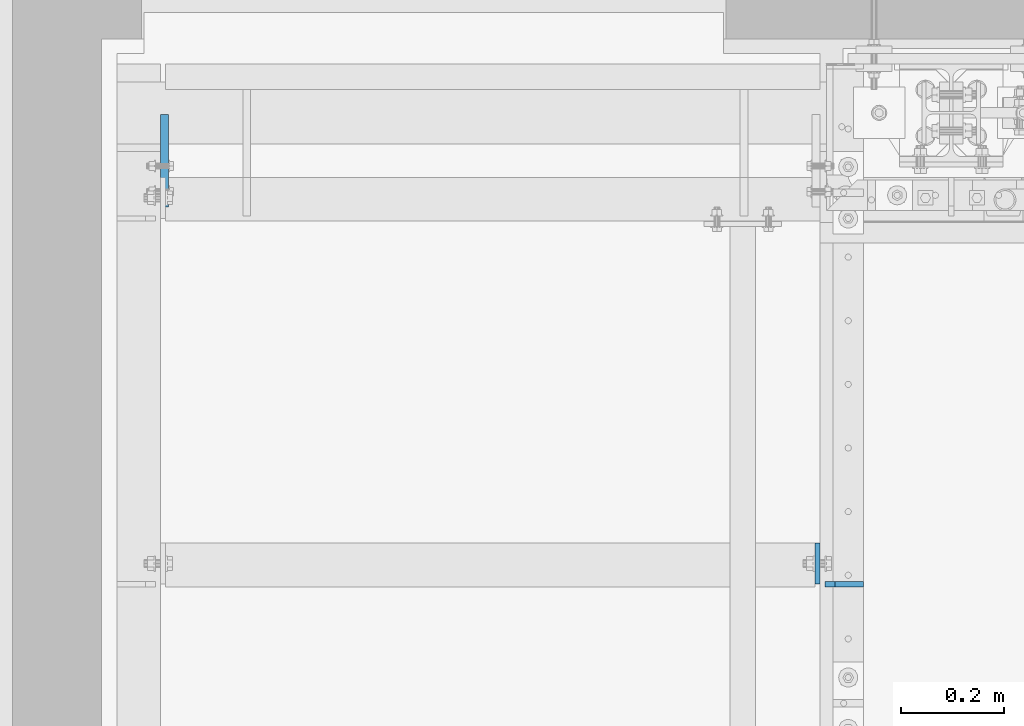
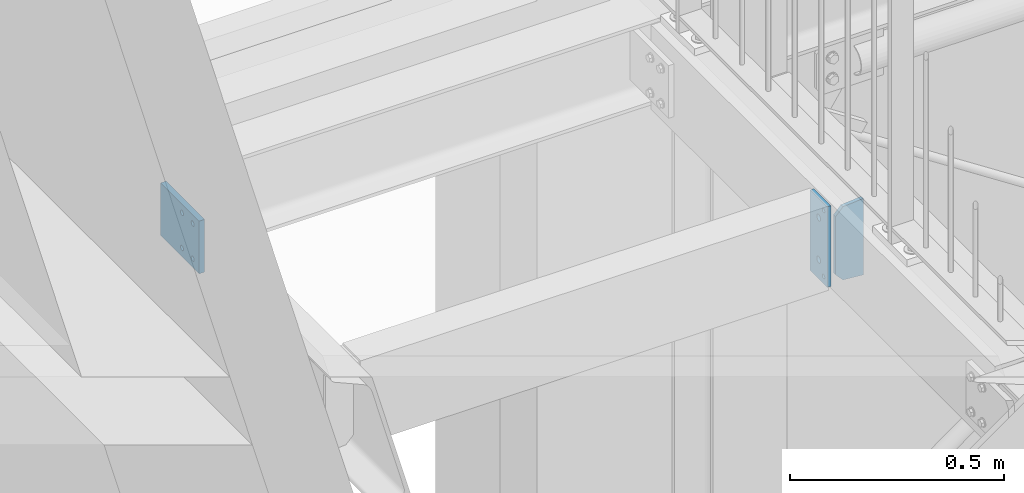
# One storey, part 178 of 825: 3 plates, 10 openings.
"""IFC2X3 building model written with IfcOpenShell, lengths in millimetres."""

from ifc_helpers import new_model, entity, si_unit, converted_unit, frame, frame_2d, origin, origin_with_axes, origin_2d_with_axis, place, context, project, spatial, polyline, circle, outline, extrude, material, layer, layer_set, element, save


model = new_model("IFC2X3")

# Units and contexts
model_context = context("Model", 3, precision=1e-09, world=origin_with_axes())
ifc_project = project(units=[si_unit("LENGTHUNIT", "METRE", prefix="MILLI"), si_unit("AREAUNIT", "SQUARE_METRE"), si_unit("VOLUMEUNIT", "CUBIC_METRE"), converted_unit("PLANEANGLEUNIT", "DEGREE", entity("IfcPlaneAngleMeasure", 0.01745329), si_unit("PLANEANGLEUNIT", "RADIAN"), dimensions=[0, 0, 0, 0, 0, 0, 0])], contexts=[model_context])

# Site, building, storey
site_placement = place(None, origin_with_axes())
site = spatial("IfcSite", under=ifc_project, at=site_placement, Name="Cnopf'sche Kinderklinik", CompositionType="ELEMENT")
building_placement = place(site_placement, origin_with_axes())
building = spatial("IfcBuilding", under=site, at=building_placement, Name="Struktur 1", CompositionType="ELEMENT")
storey_placement = place(building_placement, origin_with_axes())
storey = spatial("IfcBuildingStorey", under=building, at=storey_placement, Name="Default Storey", CompositionType="ELEMENT", Elevation=0.0)

# Plate, openings
ifc_material = material(Name="S235JR")
ifc_layer_1 = layer(ifc_material, 15.0)
ifc_layer_set_1 = layer_set([ifc_layer_1], Name="S235JR")
plate_1_placement = place(None, frame((3336.713402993, 7423.636971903, 17714.000000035), z_axis=(-1.0, 0.0, 0.0), x_axis=(0.0, -1.0, 0.0)))
plate_1 = element("IfcPlate", 1, at=plate_1_placement, inside=storey, material=ifc_layer_set_1, Name="-", ObjectType="-", context=model_context, shape_type="SweptSolid", body=[
    extrude(outline(polyline([(-90.0, -75.0), (90.0, -75.0), (90.0, 75.0), (-90.0, 75.0), (-90.0, -75.0)])), origin_with_axes(), (0.0, 0.0, 1.0), 15.0),
])
opening_1_placement = place(plate_1_placement, frame((52.999, 50.000000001, 15.5), z_axis=(0.0, 0.0, 1.0), x_axis=(1.0, 0.0, 0.0)))
element("IfcOpeningElement", 2, at=opening_1_placement, cuts=plate_1, ObjectType="Opening", context=model_context, shape_type="SweptSolid", body=[
    extrude(circle(Radius=7.001, at=frame_2d((7.001, 0.0), x_axis=(1.0, 0.0))), origin(), (0.0, 0.0, -1.0), 16.0),
])
opening_2_placement = place(plate_1_placement, frame((2.999, 50.000000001, 15.5), z_axis=(0.0, 0.0, 1.0), x_axis=(1.0, 0.0, 0.0)))
element("IfcOpeningElement", 3, at=opening_2_placement, cuts=plate_1, ObjectType="Opening", context=model_context, shape_type="SweptSolid", body=[
    extrude(circle(Radius=7.001, at=frame_2d((7.001, 0.0), x_axis=(1.0, 0.0))), origin(), (0.0, 0.0, -1.0), 16.0),
])
opening_3_placement = place(plate_1_placement, frame((52.999, -49.999999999, 15.5), z_axis=(0.0, 0.0, 1.0), x_axis=(1.0, 0.0, 0.0)))
element("IfcOpeningElement", 4, at=opening_3_placement, cuts=plate_1, ObjectType="Opening", context=model_context, shape_type="SweptSolid", body=[
    extrude(circle(Radius=7.001, at=frame_2d((7.001, 0.0), x_axis=(1.0, 0.0))), origin(), (0.0, 0.0, -1.0), 16.0),
])
opening_4_placement = place(plate_1_placement, frame((2.999, -49.999999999, 15.5), z_axis=(0.0, 0.0, 1.0), x_axis=(1.0, 0.0, 0.0)))
element("IfcOpeningElement", 5, at=opening_4_placement, cuts=plate_1, ObjectType="Opening", context=model_context, shape_type="SweptSolid", body=[
    extrude(circle(Radius=7.001, at=frame_2d((7.001, 0.0), x_axis=(1.0, 0.0))), origin(), (0.0, 0.0, -1.0), 16.0),
])

ifc_layer_2 = layer(ifc_material, 10.0)
ifc_layer_set_2 = layer_set([ifc_layer_2], Name="S235JR")
plate_2_placement = place(None, frame((4686.213402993, 6606.736971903, 17822.855265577), z_axis=(0.0, -1.0, 0.0), x_axis=(-0.996815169, 0.0, -0.079746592)))
plate_2 = element("IfcPlate", 6, at=plate_2_placement, inside=storey, material=ifc_layer_set_2, Name="Stiffener#1", ObjectType="Stiffener#1", context=model_context, shape_type="SweptSolid", body=[
    extrude(outline(polyline([(0.0, 0.0), (75.239625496, 0.0), (91.644322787, 205.05517107), (17.361672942, 217.017159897), (0.0, 0.0)])), origin_with_axes(), (0.0, 0.0, 1.0), 10.0),
])
opening_5_placement = place(plate_2_placement, frame((0.0, 0.0, -0.01), z_axis=(0.0, 0.0, 1.0), x_axis=(1.0, 0.0, 0.0)))
element("IfcOpeningElement", 7, at=opening_5_placement, cuts=plate_2, ObjectType="Opening", context=model_context, shape_type="SweptSolid", body=[
    extrude(outline(polyline([(91.644322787, 205.05517107), (71.898703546, 208.23487558), (90.049390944, 185.118867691), (91.644322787, 205.05517107)])), origin(), (0.0, 0.0, 1.0), 10.02),
])
opening_6_placement = place(plate_2_placement, frame((0.0, 0.0, -0.01), z_axis=(0.0, 0.0, 1.0), x_axis=(1.0, 0.0, 0.0)))
element("IfcOpeningElement", 8, at=opening_6_placement, cuts=plate_2, ObjectType="Opening", context=model_context, shape_type="SweptSolid", body=[
    extrude(outline(polyline([(75.239625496, 0.0), (76.83455734, 19.936303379), (55.239625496, 0.0), (75.239625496, 0.0)])), origin(), (0.0, 0.0, 1.0), 10.02),
])

plate_3_placement = place(None, frame((4601.713402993, 6601.736971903, 17828.999999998), z_axis=(-1.0, 0.0, 0.0), x_axis=(0.0, 1.0, 0.0)))
plate_3 = element("IfcPlate", 9, at=plate_3_placement, inside=storey, material=ifc_layer_set_2, Name="Endplate", ObjectType="Endplate", context=model_context, shape_type="SweptSolid", body=[
    extrude(outline(polyline([(0.0, 0.0), (80.0, 0.0), (80.0, 230.0), (0.0, 230.0), (0.0, 0.0)])), origin_with_axes(), (0.0, 0.0, 1.0), 10.0),
])
opening_7_placement = place(plate_3_placement, frame((17.5, 209.0, -0.5), z_axis=(0.0, 0.0, 1.0), x_axis=(0.0, -1.0, 0.0)))
element("IfcOpeningElement", 10, at=opening_7_placement, cuts=plate_3, ObjectType="Opening", context=model_context, shape_type="SweptSolid", body=[
    extrude(circle(Radius=6.001, at=origin_2d_with_axis()), origin(), (0.0, 0.0, 1.0), 11.0),
])
opening_8_placement = place(plate_3_placement, frame((17.5, 21.0, -0.5), z_axis=(0.0, 0.0, 1.0), x_axis=(0.0, -1.0, 0.0)))
element("IfcOpeningElement", 11, at=opening_8_placement, cuts=plate_3, ObjectType="Opening", context=model_context, shape_type="SweptSolid", body=[
    extrude(circle(Radius=6.001, at=origin_2d_with_axis()), origin(), (0.0, 0.0, 1.0), 11.0),
])
opening_9_placement = place(plate_3_placement, frame((40.0, 64.001, 10.5), z_axis=(0.0, 0.0, 1.0), x_axis=(1.0, 0.0, 0.0)))
element("IfcOpeningElement", 12, at=opening_9_placement, cuts=plate_3, ObjectType="Opening", context=model_context, shape_type="SweptSolid", body=[
    extrude(circle(Radius=9.001, at=frame_2d((0.0, -9.001), x_axis=(1.0, 0.0))), origin(), (0.0, 0.0, -1.0), 11.0),
])
opening_10_placement = place(plate_3_placement, frame((40.0, 184.001, 10.5), z_axis=(0.0, 0.0, 1.0), x_axis=(1.0, 0.0, 0.0)))
element("IfcOpeningElement", 13, at=opening_10_placement, cuts=plate_3, ObjectType="Opening", context=model_context, shape_type="SweptSolid", body=[
    extrude(circle(Radius=9.001, at=frame_2d((0.0, -9.001), x_axis=(1.0, 0.0))), origin(), (0.0, 0.0, -1.0), 11.0),
])

save(model, "model.ifc")
